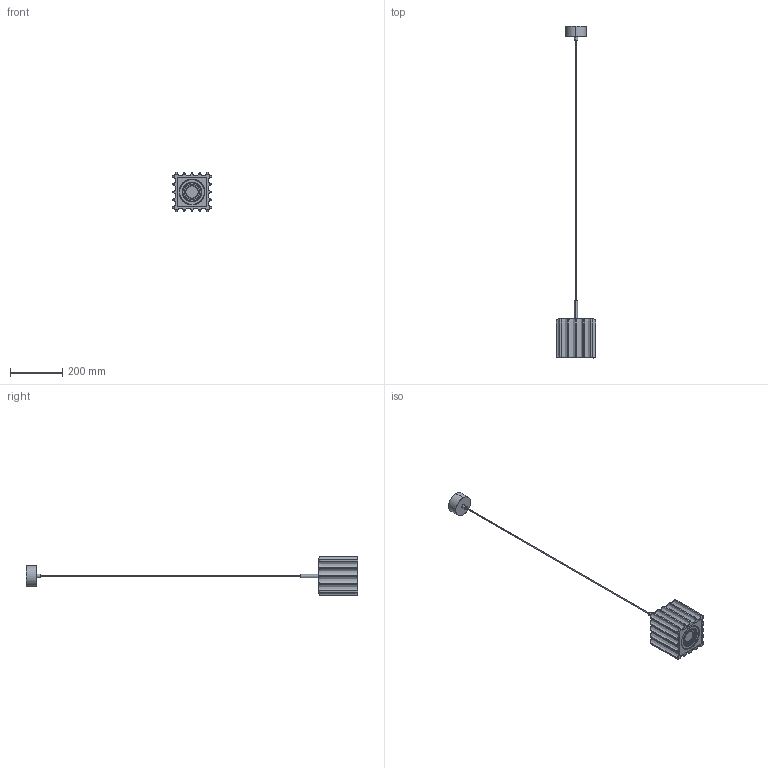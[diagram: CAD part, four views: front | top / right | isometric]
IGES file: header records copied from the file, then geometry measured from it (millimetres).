
Start section: SolidWorks IGES file using analytic representation for surfaces
Global section: file name: C:\Users\Agustin\Desktop\ENERO 2025\DENA CUADRADA\PIRE_C1090_S.IGS; native system: SolidWorks 2018; preprocessor: SolidWorks 2018; author: Agustin; date: 250305.175229; units: millimetre
Bounding box: 150 x 1275 x 150 mm (x, y, z)
Surface area: 310176 mm2 (no closed solid volume)
Topology: 0 solids, 0 shells, 145 faces, 3400 edges, 3400 vertices
Faces by surface type: revolution 90, bspline 55
